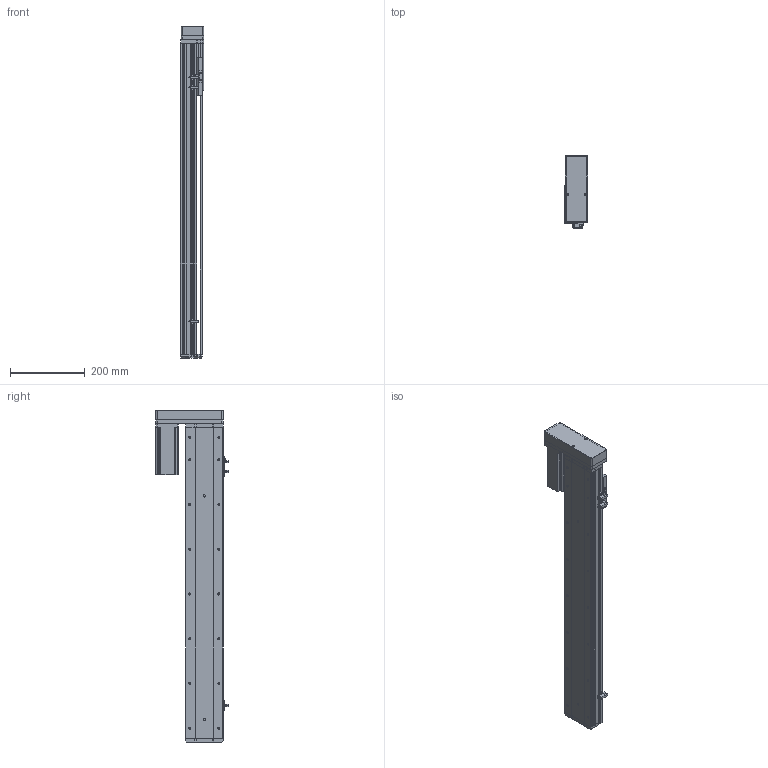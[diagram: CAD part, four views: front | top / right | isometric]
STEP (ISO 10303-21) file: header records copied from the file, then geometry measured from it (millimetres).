
FILE_DESCRIPTION (( 'STEP AP214' ), '1' );
FILE_NAME ('KSD100S-S650-ML-CM.STEP', '2019-08-30T06:15:22', ( '微软用户' ), ( '微软中国' ), 'SwSTEP 2.0', 'SolidWorks 2014', '' );
FILE_SCHEMA (( 'AUTOMOTIVE_DESIGN' ));
Length unit declared in the file: millimetre
Products named in the file (11): 100宽底板半封闭丝杆650行程; KSD100S-S650-ML-CM; 悵誘欶酘衵殏; 台达ECMA－C20604AS伺服电机; 100宽马达安装板连板左右折丝杆; U倰嫖萇EEㄜSX672; 覜茼え100遵圉猾敕; 100宽防尘板丝杆650行程; 100遵鎮湛假蚾啣; 100宽滚珠螺姆安装板半封闭; 100遵傷啣
Assembly tree (12 placements, depth 2):
  KSD100S-S650-ML-CM
    100宽底板半封闭丝杆650行程
    100遵傷啣
    100宽滚珠螺姆安装板半封闭
    100遵鎮湛假蚾啣
    100宽防尘板丝杆650行程
    覜茼え100遵圉猾敕
    U倰嫖萇EEㄜSX672  x3
    100宽马达安装板连板左右折丝杆
    台达ECMA－C20604AS伺服电机
    悵誘欶酘衵殏
Bounding box: 62 x 193.7 x 890.5 mm (x, y, z)
Volume: 2265233.5 mm3; surface area: 724055 mm2
Topology: 13 solids, 13 shells, 1267 faces, 3570 edges, 2261 vertices
Faces by surface type: cylinder 624, plane 508, cone 135
Entity records: 44111 total; most frequent: CARTESIAN_POINT 8597, DIRECTION 6009, ORIENTED_EDGE 5776, EDGE_CURVE 2888, AXIS2_PLACEMENT_3D 2189, VERTEX_POINT 1885, LINE 1631, VECTOR 1631
